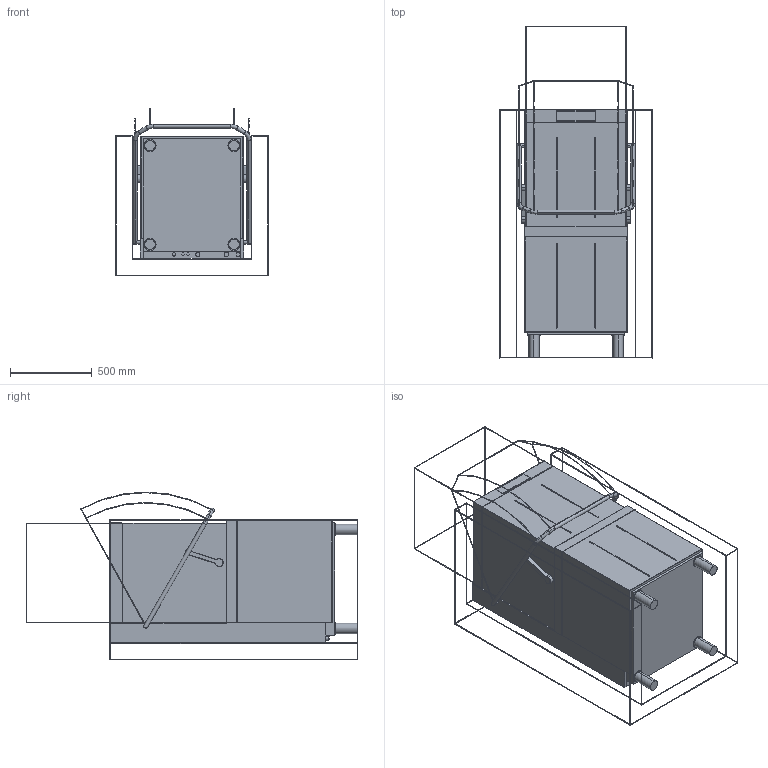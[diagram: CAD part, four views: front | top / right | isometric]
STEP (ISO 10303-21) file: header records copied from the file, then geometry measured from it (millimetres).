
FILE_DESCRIPTION (( 'STEP AP214' ), '1' );
FILE_NAME ('K5.STEP', '2021-02-08T11:16:49', ( '' ), ( '' ), 'SwSTEP 2.0', 'SolidWorks 2018', '' );
FILE_SCHEMA (( 'AUTOMOTIVE_DESIGN' ));
Length unit declared in the file: millimetre
Products named in the file (1): K5
Bounding box: 934 x 2029.86 x 1027.25 mm (x, y, z)
Volume: 633711079.1 mm3; surface area: 5435858.8 mm2
Topology: 2 solids, 2 shells, 357 faces, 918 edges, 540 vertices
Faces by surface type: cylinder 206, plane 101, sphere 18, torus 16, cone 12, bspline 4
Entity records: 12855 total; most frequent: CARTESIAN_POINT 3328, ORIENTED_EDGE 1800, DIRECTION 1608, EDGE_CURVE 900, AXIS2_PLACEMENT_3D 596, VERTEX_POINT 540, LINE 416, VECTOR 416
